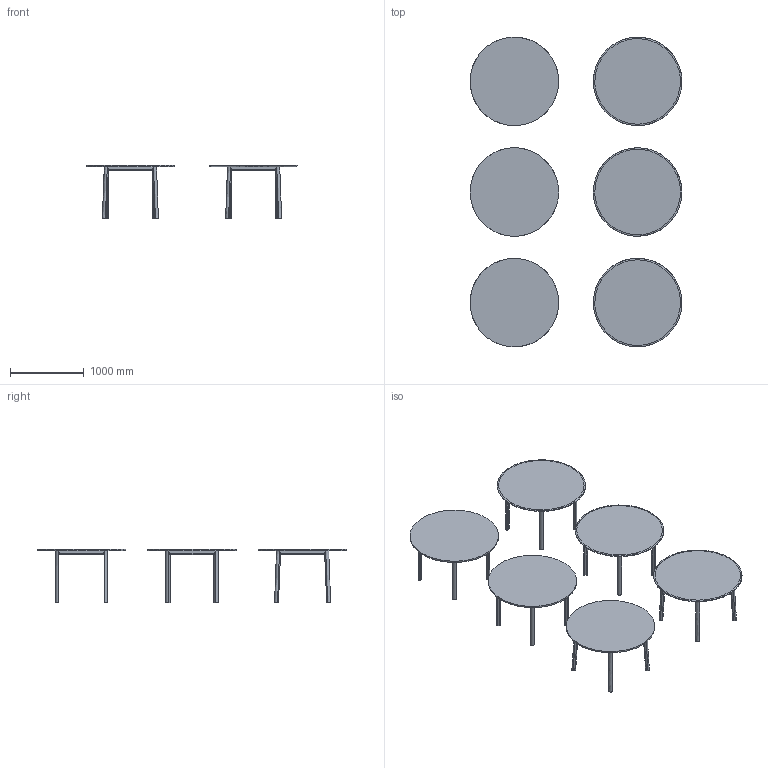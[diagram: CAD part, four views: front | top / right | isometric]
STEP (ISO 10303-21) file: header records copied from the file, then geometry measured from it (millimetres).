
FILE_DESCRIPTION(/* description */ (''),/* implementation_level */ '2;1');
FILE_NAME(/* name */ 'N8_D120',/* time_stamp */ '2025-10-20T18:07:28+02:00',/* author */ (''),/* organization */ (''),/* preprocessor_version */ 'ST-DEVELOPER v16.5',/* originating_system */ 'Rhino 7.38',/* authorisation */ '');
FILE_SCHEMA (('AUTOMOTIVE_DESIGN_CC2'));
Length unit declared in the file: millimetre
Products named in the file (1): Document
Bounding box: 2871.55 x 4200 x 732.03 mm (x, y, z)
Volume: 210162447.2 mm3; surface area: 19309232.6 mm2
Topology: 78 solids, 78 shells, 996 faces, 2449 edges, 1609 vertices
Faces by surface type: bspline 996
Entity records: 73280 total; most frequent: CARTESIAN_POINT 39553, B_SPLINE_CURVE_WITH_KNOTS 5839, ORIENTED_EDGE 4656, PCURVE 4656, DEFINITIONAL_REPRESENTATION 4656, SURFACE_CURVE 2328, EDGE_CURVE 2328, VERTEX_POINT 1488
